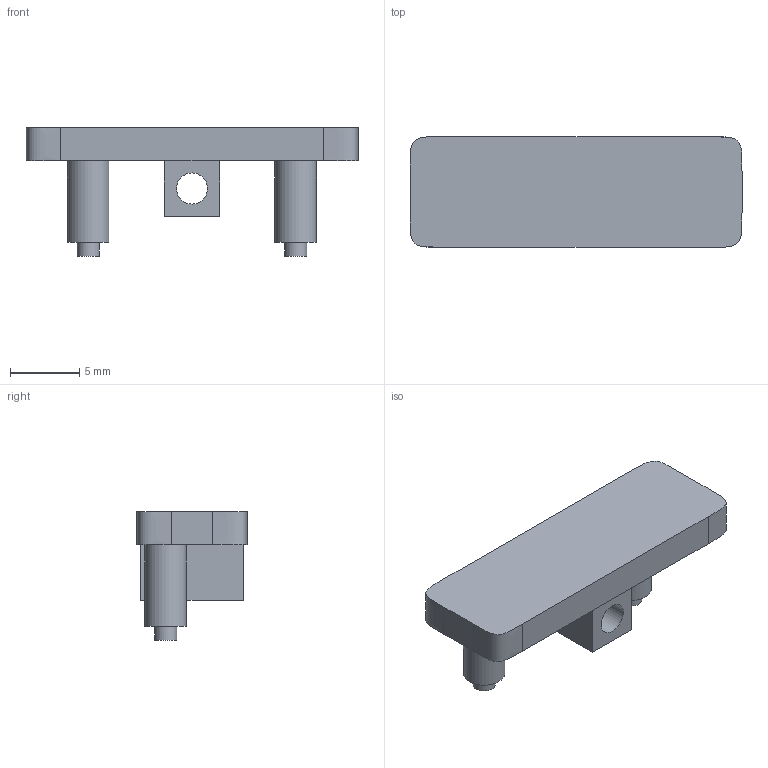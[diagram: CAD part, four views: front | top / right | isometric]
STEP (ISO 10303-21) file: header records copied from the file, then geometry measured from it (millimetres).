
FILE_DESCRIPTION(('Open CASCADE Model'),'2;1');
FILE_NAME('Open CASCADE Shape Model','2026-10-14T06:59:41',('Author'),( 'Open CASCADE'),'Open CASCADE STEP processor 7.9','Open CASCADE 7.9' ,'Unknown');
FILE_SCHEMA(('AUTOMOTIVE_DESIGN { 1 0 10303 214 1 1 1 1 }'));
Length unit declared in the file: millimetre
Products named in the file (1): Open CASCADE STEP translator 7.9 4
Bounding box: 24 x 8 x 9.3 mm (x, y, z)
Volume: 634.2 mm3; surface area: 787.1 mm2
Topology: 1 solids, 1 shells, 24 faces, 51 edges, 34 vertices
Faces by surface type: plane 15, cylinder 5, extrusion 4
Full cylindrical faces by diameter (mm): 1.6 x2, 2.25 x1, 3 x2
Entity records: 1840 total; most frequent: CARTESIAN_POINT 792, DIRECTION 183, VECTOR 121, LINE 117, ORIENTED_EDGE 102, PCURVE 102, DEFINITIONAL_REPRESENTATION 102, EDGE_CURVE 51
